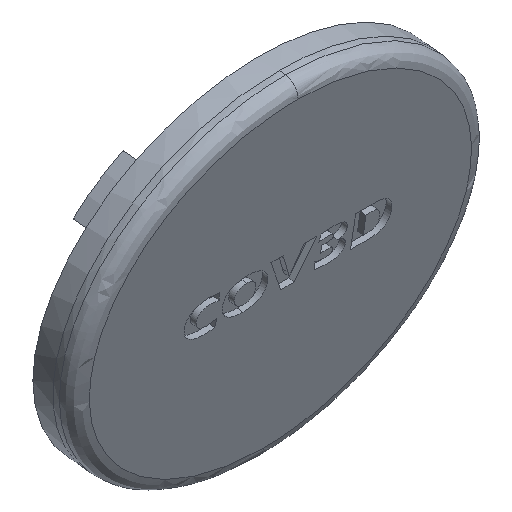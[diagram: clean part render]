
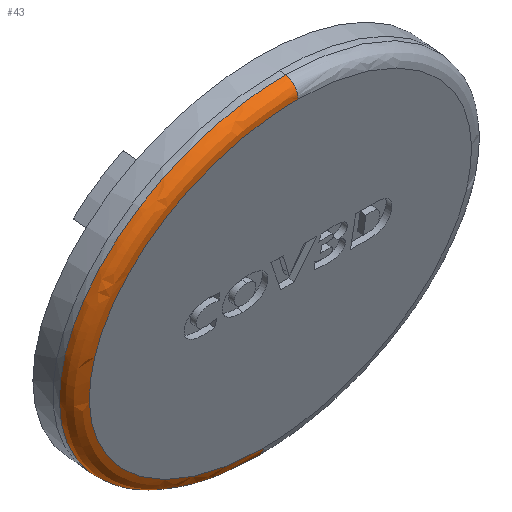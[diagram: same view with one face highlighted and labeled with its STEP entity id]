
A CAD part, isometric view. The second image highlights one B-rep face of the part: STEP entity #43.
In plain terms, the highlighted free-form (B-spline) face has degree [2, 2] with [3, 5] control points.
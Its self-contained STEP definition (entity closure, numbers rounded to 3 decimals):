
#43=ADVANCED_FACE('',(#110),#1043,.T.);
#110=FACE_OUTER_BOUND('',#186,.T.);
#186=EDGE_LOOP('',(#321,#322,#323,#324));
#321=ORIENTED_EDGE('',*,*,#577,.F.);
#322=ORIENTED_EDGE('',*,*,#578,.T.);
#323=ORIENTED_EDGE('',*,*,#579,.T.);
#324=ORIENTED_EDGE('',*,*,#713,.F.);
#577=EDGE_CURVE('',#888,#977,#727,.T.);
#578=EDGE_CURVE('',#888,#889,#728,.T.);
#579=EDGE_CURVE('',#889,#978,#729,.T.);
#713=EDGE_CURVE('',#977,#978,#746,.T.);
#727=(
BOUNDED_CURVE()
B_SPLINE_CURVE(2,(#2068,#2069,#2070,#2071,#2072),.UNSPECIFIED.,.F.,.F.)
B_SPLINE_CURVE_WITH_KNOTS((3,2,3),(0.,43.396,86.792),
 .UNSPECIFIED.)
CURVE()
GEOMETRIC_REPRESENTATION_ITEM()
RATIONAL_B_SPLINE_CURVE((1.,0.707,1.,0.707,1.))
REPRESENTATION_ITEM('')
);
#728=(
BOUNDED_CURVE()
B_SPLINE_CURVE(2,(#2073,#2074,#2075),.UNSPECIFIED.,.F.,.F.)
B_SPLINE_CURVE_WITH_KNOTS((3,3),(0.,3.727),.UNSPECIFIED.)
CURVE()
GEOMETRIC_REPRESENTATION_ITEM()
RATIONAL_B_SPLINE_CURVE((1.,0.707,1.))
REPRESENTATION_ITEM('')
);
#729=(
BOUNDED_CURVE()
B_SPLINE_CURVE(2,(#2076,#2077,#2078,#2079,#2080),.UNSPECIFIED.,.F.,.F.)
B_SPLINE_CURVE_WITH_KNOTS((3,2,3),(0.,43.396,86.792),
 .UNSPECIFIED.)
CURVE()
GEOMETRIC_REPRESENTATION_ITEM()
RATIONAL_B_SPLINE_CURVE((1.,0.707,1.,0.707,1.))
REPRESENTATION_ITEM('')
);
#746=(
BOUNDED_CURVE()
B_SPLINE_CURVE(2,(#2816,#2817,#2818),.UNSPECIFIED.,.F.,.F.)
B_SPLINE_CURVE_WITH_KNOTS((3,3),(0.,3.727),.UNSPECIFIED.)
CURVE()
GEOMETRIC_REPRESENTATION_ITEM()
RATIONAL_B_SPLINE_CURVE((1.,0.707,1.))
REPRESENTATION_ITEM('')
);
#888=VERTEX_POINT('',#1920);
#889=VERTEX_POINT('',#1921);
#977=VERTEX_POINT('',#2009);
#978=VERTEX_POINT('',#2010);
#1043=(
BOUNDED_SURFACE()
B_SPLINE_SURFACE(2,2,((#1190,#1191,#1192,#1193,#1194),(#1195,#1196,#1197,
#1198,#1199),(#1200,#1201,#1202,#1203,#1204)),.UNSPECIFIED.,.F.,.F.,.F.)
B_SPLINE_SURFACE_WITH_KNOTS((3,3),(3,2,3),(0.,3.727),(0.,43.396,
86.792),.UNSPECIFIED.)
GEOMETRIC_REPRESENTATION_ITEM()
RATIONAL_B_SPLINE_SURFACE(((1.,0.707,1.,0.707,1.),
(0.707,0.5,0.707,0.5,
0.707),(1.,0.707,1.,0.707,1.)))
REPRESENTATION_ITEM('')
SURFACE()
);
#1190=CARTESIAN_POINT('',(-0.114,-104.051,-22.438));
#1191=CARTESIAN_POINT('',(-35.872,-104.008,-22.433));
#1192=CARTESIAN_POINT('',(-35.872,-107.243,7.574));
#1193=CARTESIAN_POINT('',(-35.872,-110.479,37.581));
#1194=CARTESIAN_POINT('',(-0.114,-110.522,37.576));
#1195=CARTESIAN_POINT('',(-0.116,-106.411,-22.692));
#1196=CARTESIAN_POINT('',(-35.875,-106.368,-22.688));
#1197=CARTESIAN_POINT('',(-35.875,-109.603,7.319));
#1198=CARTESIAN_POINT('',(-35.875,-112.838,37.326));
#1199=CARTESIAN_POINT('',(-0.116,-112.881,37.321));
#1200=CARTESIAN_POINT('',(-0.116,-106.667,-20.319));
#1201=CARTESIAN_POINT('',(-33.047,-106.627,-20.315));
#1202=CARTESIAN_POINT('',(-33.047,-109.606,7.319));
#1203=CARTESIAN_POINT('',(-33.047,-112.585,34.952));
#1204=CARTESIAN_POINT('',(-0.116,-112.625,34.948));
#1920=CARTESIAN_POINT('',(-0.114,-104.051,-22.438));
#1921=CARTESIAN_POINT('',(-0.116,-106.667,-20.319));
#2009=CARTESIAN_POINT('',(-0.114,-110.522,37.576));
#2010=CARTESIAN_POINT('',(-0.116,-112.625,34.948));
#2068=CARTESIAN_POINT('',(-0.114,-104.051,-22.438));
#2069=CARTESIAN_POINT('',(-35.872,-104.008,-22.433));
#2070=CARTESIAN_POINT('',(-35.872,-107.243,7.574));
#2071=CARTESIAN_POINT('',(-35.872,-110.479,37.581));
#2072=CARTESIAN_POINT('',(-0.114,-110.522,37.576));
#2073=CARTESIAN_POINT('',(-0.114,-104.051,-22.438));
#2074=CARTESIAN_POINT('',(-0.116,-106.411,-22.692));
#2075=CARTESIAN_POINT('',(-0.116,-106.667,-20.319));
#2076=CARTESIAN_POINT('',(-0.116,-106.667,-20.319));
#2077=CARTESIAN_POINT('',(-33.047,-106.627,-20.315));
#2078=CARTESIAN_POINT('',(-33.047,-109.606,7.319));
#2079=CARTESIAN_POINT('',(-33.047,-112.585,34.952));
#2080=CARTESIAN_POINT('',(-0.116,-112.625,34.948));
#2816=CARTESIAN_POINT('',(-0.114,-110.522,37.576));
#2817=CARTESIAN_POINT('',(-0.116,-112.881,37.321));
#2818=CARTESIAN_POINT('',(-0.116,-112.625,34.948));
